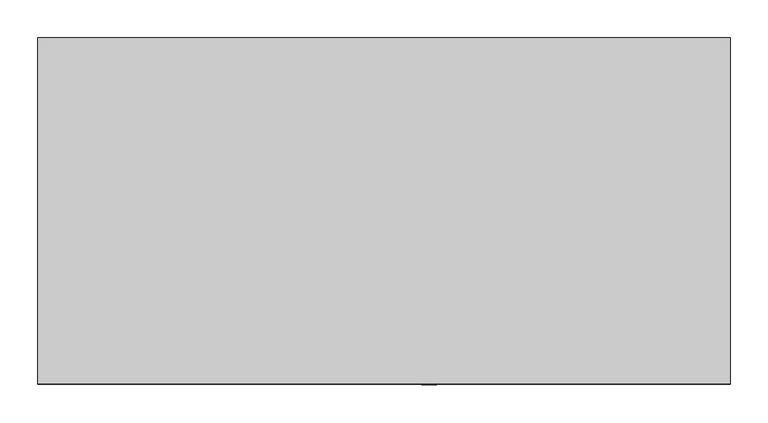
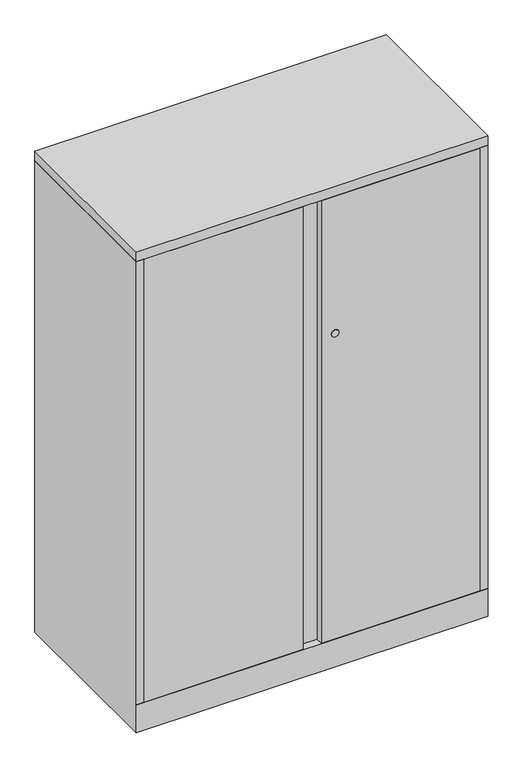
"""IFC4 building model written with IfcOpenShell, lengths in millimetres: furniture geometry, Steelcase - Universal Storage - Cabinet - Storage - 40H-52H - Flush Steel : 52H x 18D x 36W."""

import ifcopenshell
import ifcopenshell.guid

model = None  # the IFC model being written
_history = None  # IfcOwnerHistory: only IFC2X3 demands one
_inside = {}  # id of a spatial element -> (the spatial element, [elements in it])
_under = {}  # id of a project, library or spatial element -> (it, [spatial elements below it])
_declared = {}  # id of a project -> (the project, [libraries it declares])
_typed = {}  # id of a type object -> (the type object, [elements of that type])
_made_of = {}  # id of a material, layer set ... -> (it, [elements and type objects made of it])


def new_model(schema):
    """Start an empty IFC model of exactly this schema.

    Asked for "IFC4X3", IfcOpenShell would pick the latest addendum, in which some entities
    have other attributes; the version numbers below select the first issue.
    IFC2X3 requires an IfcOwnerHistory on every rooted entity: one is made here for all.
    """
    global model, _history
    if schema == "IFC4X3":
        model = ifcopenshell.file(schema_version=(4, 3, 0, 0))
    else:
        model = ifcopenshell.file(schema=schema)
    _inside.clear()
    _under.clear()
    _declared.clear()
    _typed.clear()
    _made_of.clear()
    _history = None
    if model.schema == "IFC2X3":
        org = make("IfcOrganization", Name="unknown")
        user = make(
            "IfcPersonAndOrganization",
            ThePerson=make("IfcPerson", FamilyName="unknown"),
            TheOrganization=org,
        )
        app = make(
            "IfcApplication",
            ApplicationDeveloper=org,
            Version="unknown",
            ApplicationFullName="unknown",
            ApplicationIdentifier="unknown",
        )
        _history = make(
            "IfcOwnerHistory",
            OwningUser=user,
            OwningApplication=app,
            ChangeAction="ADDED",
            CreationDate=0,
        )
    return model


def make(cls, **values):
    """One entity of the class cls with the attributes given. An attribute that is None is left unset."""
    return model.create_entity(
        cls, **{name: value for name, value in values.items() if value is not None}
    )


def rooted(cls, **values):
    """An entity with a GlobalId (a new one), such as an element, a storey or a relation."""
    return make(cls, GlobalId=ifcopenshell.guid.new(), OwnerHistory=_history, **values)


def si_unit(unit_type, name, prefix=None):
    """IfcSIUnit, for example si_unit("LENGTHUNIT", "METRE", prefix="MILLI")."""
    return make("IfcSIUnit", UnitType=unit_type, Prefix=prefix, Name=name)


def assignment(units):
    """IfcUnitAssignment: the units of a project."""
    return None if units is None else make("IfcUnitAssignment", Units=units)


def point(xyz):
    """IfcCartesianPoint."""
    return None if xyz is None else make("IfcCartesianPoint", Coordinates=xyz)


def direction(xyz):
    """IfcDirection."""
    return None if xyz is None else make("IfcDirection", DirectionRatios=xyz)


def frame(location, z_axis=None, x_axis=None):
    """IfcAxis2Placement3D, a coordinate frame: its origin and axes. An axis left out is left unset."""
    return make(
        "IfcAxis2Placement3D",
        Location=point(location),
        Axis=direction(z_axis),
        RefDirection=direction(x_axis),
    )


def frame_2d(location, x_axis=None):
    """IfcAxis2Placement2D, a coordinate frame in the plane: its origin and x axis."""
    return make(
        "IfcAxis2Placement2D", Location=point(location), RefDirection=direction(x_axis)
    )


def origin():
    """The frame at (0, 0, 0) with its axes left unset."""
    return frame((0.0, 0.0, 0.0))


def place(relative_to, where):
    """IfcLocalPlacement: puts the frame where relative to a parent placement (None: the world)."""
    return make(
        "IfcLocalPlacement", PlacementRelTo=relative_to, RelativePlacement=where
    )


def context(
    kind, dimensions, precision=None, world=None, true_north=None, identifier=None
):
    """IfcGeometricRepresentationContext, for example the 3D "Model" context."""
    return make(
        "IfcGeometricRepresentationContext",
        ContextIdentifier=identifier,
        ContextType=kind,
        CoordinateSpaceDimension=dimensions,
        Precision=precision,
        WorldCoordinateSystem=world,
        TrueNorth=true_north,
    )


def project(units=None, contexts=None):
    """IfcProject with its units and contexts."""
    return rooted(
        "IfcProject",
        Name="project",
        RepresentationContexts=contexts,
        UnitsInContext=assignment(units),
    )


def spatial(cls, under=None, at=None, **own):
    """A site, building, storey or space (cls), placed at a placement, below another one or the project."""
    s = rooted(cls, ObjectPlacement=at, **own)
    if under is not None:
        _under.setdefault(under.id(), (under, []))[1].append(s)
    return s


def polyline(points):
    """IfcPolyline through the points."""
    return make("IfcPolyline", Points=[point(p) for p in points])


def circle_curve(where, radius):
    """IfcCircle in the frame where."""
    return make("IfcCircle", Position=where, Radius=radius)


def trimmed(basis, trim1, trim2, sense, master):
    """IfcTrimmedCurve: the piece of a basis curve between two trims."""
    return make(
        "IfcTrimmedCurve",
        BasisCurve=basis,
        Trim1=trim1,
        Trim2=trim2,
        SenseAgreement=sense,
        MasterRepresentation=master,
    )


def segment(curve, same_sense, transition):
    """IfcCompositeCurveSegment."""
    return make(
        "IfcCompositeCurveSegment",
        Transition=transition,
        SameSense=same_sense,
        ParentCurve=curve,
    )


def composite_curve(segments, self_intersect=None):
    """IfcCompositeCurve: segments joined end to end."""
    return make("IfcCompositeCurve", Segments=segments, SelfIntersect=self_intersect)


def outline(outer, holes=None, kind="AREA"):
    """IfcArbitraryClosedProfileDef: a profile drawn as a closed curve; with holes, ...WithVoids."""
    if holes is None:
        return make("IfcArbitraryClosedProfileDef", ProfileType=kind, OuterCurve=outer)
    return make(
        "IfcArbitraryProfileDefWithVoids",
        ProfileType=kind,
        OuterCurve=outer,
        InnerCurves=holes,
    )


def extrude(swept, where, along, depth):
    """IfcExtrudedAreaSolid: the profile swept, set in the frame where, extruded along a direction by depth."""
    return make(
        "IfcExtrudedAreaSolid",
        SweptArea=swept,
        Position=where,
        ExtrudedDirection=direction(along),
        Depth=depth,
    )


def faces_of(points, faces, orient=None, outer=None):
    """IfcFace entities. A face is a list of loops; a loop is a list of indices into points, from 0.

    orient and outer hold one flag for each loop. By default every Orientation is true, the
    first loop of a face is its IfcFaceOuterBound and the others are IfcFaceBound.
    """
    made = []
    for i, loops in enumerate(faces):
        bounds = []
        for j, loop in enumerate(loops):
            is_outer = j == 0 if outer is None else outer[i][j]
            bounds.append(
                make(
                    "IfcFaceOuterBound" if is_outer else "IfcFaceBound",
                    Bound=make("IfcPolyLoop", Polygon=[points[k] for k in loop]),
                    Orientation=True if orient is None else orient[i][j],
                )
            )
        made.append(make("IfcFace", Bounds=bounds))
    return made


def faceted_brep(points, faces, orient=None, outer=None, voids=None):
    """IfcFacetedBrep: a solid bounded by flat faces; with voids (closed shells), ...WithVoids."""
    shared = [point(p) for p in points]
    hull = make("IfcClosedShell", CfsFaces=faces_of(shared, faces, orient, outer))
    if voids is None:
        return make("IfcFacetedBrep", Outer=hull)
    return make(
        "IfcFacetedBrepWithVoids",
        Outer=hull,
        Voids=[
            make(cls, CfsFaces=faces_of(shared, fs, o, b)) for cls, fs, o, b in voids
        ],
    )


def shape(context_of_items, identifier, shape_type, items):
    """IfcShapeRepresentation: the items that make up one representation, for example the "Body"."""
    return make(
        "IfcShapeRepresentation",
        ContextOfItems=context_of_items,
        RepresentationIdentifier=identifier,
        RepresentationType=shape_type,
        Items=items,
    )


def source(mapping_origin, context_of_items, identifier, shape_type, items):
    """IfcRepresentationMap: a shape defined once, which mapped items show again and again."""
    return make(
        "IfcRepresentationMap",
        MappingOrigin=mapping_origin,
        MappedRepresentation=shape(context_of_items, identifier, shape_type, items),
    )


def transform(
    local_origin,
    x_axis=None,
    y_axis=None,
    z_axis=None,
    scale=None,
    scale2=None,
    scale3=None,
    uniform=True,
):
    """IfcCartesianTransformationOperator3D, or its non-uniform kind. x_axis, y_axis, z_axis: its Axis1, 2, 3."""
    if uniform:
        return make(
            "IfcCartesianTransformationOperator3D",
            Axis1=direction(x_axis),
            Axis2=direction(y_axis),
            LocalOrigin=point(local_origin),
            Scale=scale,
            Axis3=direction(z_axis),
        )
    return make(
        "IfcCartesianTransformationOperator3DnonUniform",
        Axis1=direction(x_axis),
        Axis2=direction(y_axis),
        LocalOrigin=point(local_origin),
        Scale=scale,
        Axis3=direction(z_axis),
        Scale2=scale2,
        Scale3=scale3,
    )


def mapped(mapping_source, mapping_target):
    """IfcMappedItem: shows the shape of a source again, moved by a transform."""
    return make(
        "IfcMappedItem", MappingSource=mapping_source, MappingTarget=mapping_target
    )


def made_of(thing, what):
    """Note that an element or type object is made of a material, layer set ...; save() writes the relation."""
    if what is not None:
        _made_of.setdefault(what.id(), (what, []))[1].append(thing)
    return thing


def element(
    cls,
    number,
    at=None,
    inside=None,
    cuts=None,
    type_object=None,
    material=None,
    context=None,
    identifier="Body",
    shape_type=None,
    held_by="IfcProductDefinitionShape",
    body=None,
    shapes=None,
    **own,
):
    """One element of the class cls, such as IfcWall. Its Tag is "e" and its number.

    at: its placement. inside: the storey or other place that contains it. cuts: it is an
    opening in that element (IfcRelVoidsElement). A single representation is given by context,
    identifier, shape_type and body (its items); several are given by shapes. held_by: the class
    of the entity that holds the representations. save() writes the other relations.
    """
    e = rooted(cls, Tag="e%d" % number, ObjectPlacement=at, **own)
    if body is not None:
        shapes = [shape(context, identifier, shape_type, body)]
    if shapes is not None:
        e.Representation = make(held_by, Representations=shapes)
    if inside is not None:
        _inside.setdefault(inside.id(), (inside, []))[1].append(e)
    if cuts is not None:
        rooted(
            "IfcRelVoidsElement", RelatingBuildingElement=cuts, RelatedOpeningElement=e
        )
    if type_object is not None:
        _typed.setdefault(type_object.id(), (type_object, []))[1].append(e)
    return made_of(e, material)


def aggregate(whole, parts):
    """IfcRelAggregates: a whole, such as a stair, and the parts it consists of."""
    return rooted("IfcRelAggregates", RelatingObject=whole, RelatedObjects=parts)


def save(model, path):
    """Write the relations noted so far, then the file.

    IfcRelAggregates (storeys below a building ...), IfcRelContainedInSpatialStructure (elements
    in a storey), IfcRelDefinesByType, IfcRelAssociatesMaterial and IfcRelDeclares: one each for
    every whole, place, type object, material and project.
    """
    for whole, parts in _under.values():
        aggregate(whole, parts)
    for where, things in _inside.values():
        rooted(
            "IfcRelContainedInSpatialStructure",
            RelatedElements=things,
            RelatingStructure=where,
        )
    for kind, things in _typed.values():
        rooted("IfcRelDefinesByType", RelatedObjects=things, RelatingType=kind)
    for what, things in _made_of.values():
        rooted("IfcRelAssociatesMaterial", RelatedObjects=things, RelatingMaterial=what)
    for by, libraries in _declared.values():
        rooted("IfcRelDeclares", RelatingContext=by, RelatedDefinitions=libraries)
    model.write(path)


def furniture_f18c0b79(model_context):
    return source(origin(), model_context, "Body", "SolidModel", [
        extrude(outline(polyline([(914.4, 0.0), (914.4, -457.2), (0.0, -457.2), (0.0, 0.0), (914.4, 0.0)])), frame((0.0, 0.0, 1295.4), z_axis=(0.0, 0.0, 1.0), x_axis=(1.0, 0.0, 0.0)), (0.0, 0.0, 1.0), 25.4000484),
        extrude(outline(composite_curve([segment(trimmed(circle_curve(frame_2d((917.575, 517.0109835)), 9.7167829), [point((917.575, 526.7277664))], [point((917.575, 507.2942006))], False, "CARTESIAN"), True, "CONTINUOUS"), segment(trimmed(circle_curve(frame_2d((917.575, 517.0109835)), 9.7167829), [point((917.575, 507.2942006))], [point((917.575, 526.7277664))], False, "CARTESIAN"), True, "CONTINUOUS")], self_intersect=False)), frame((0.0, -457.8695275, 0.0), z_axis=(0.0, 1.0, 0.0), x_axis=(0.0, 0.0, 1.0)), (0.0, 0.0, 1.0), 0.6695275),
        extrude(outline(polyline([(20.8280006, -431.673866), (893.572, -431.673866), (893.572, -457.2), (481.33, -457.2), (481.33, -438.0238781), (433.07, -438.0238781), (433.07, -457.2), (20.8280006, -457.2), (20.8280006, -431.673866)])), frame((0.0, 0.0, 77.724), z_axis=(0.0, 0.0, 1.0), x_axis=(1.0, 0.0, 0.0)), (0.0, 0.0, 1.0), 1216.406),
        faceted_brep([(914.4, 0.0, 0.0), (914.4, -457.2, 0.0), (0.0, -457.2, 0.0), (0.0, 0.0, 0.0), (0.0, 0.0, 1295.4), (914.4, 0.0, 1295.4), (0.0, -457.2, 76.2), (0.0, -457.2, 77.724), (0.0, -457.2, 1295.4), (914.4, -457.2, 76.2), (914.4, -457.2, 1295.4), (914.4, -457.2, 77.724), (889.0000242, -25.4000008, 1295.4), (889.0000242, -430.1498674, 1295.4), (893.572, -430.1498674, 1295.4), (893.572, -431.6738781, 1295.4), (895.096, -431.6738781, 1295.4), (895.096, -457.2, 1295.4), (19.304, -457.2, 1295.4), (19.304, -431.673866, 1295.4), (20.8280006, -431.673866, 1295.4), (20.8280006, -430.1498674, 1295.4), (25.4000008, -430.1498674, 1295.4), (25.4000008, -25.4000008, 1295.4), (19.304, -457.2, 77.724), (19.304, -437.896, 77.724), (895.096, -457.2, 77.724), (895.096, -437.7698418, 77.724), (889.0000242, -25.4000008, 77.724), (889.0000242, -430.1498674, 77.724), (893.572, -430.1498674, 77.724), (893.572, -431.6738781, 77.724), (895.096, -431.6738781, 77.724), (19.304, -431.673866, 77.724), (20.8280006, -431.673866, 77.724), (20.8280006, -430.1498674, 77.724), (25.4000008, -430.1498674, 77.724), (25.4000008, -25.4000008, 77.724), (25.526134, -431.673866, 77.724), (889.0000242, -431.673866, 77.724)], [[[0, 1, 2, 3]], [[0, 3, 4, 5]], [[4, 3, 2, 6, 7, 8]], [[2, 1, 9, 6]], [[1, 0, 5, 10, 11, 9]], [[12, 13, 14, 15, 16, 17, 10, 5, 4, 8, 18, 19, 20, 21, 22, 23]], [[24, 7, 25]], [[11, 26, 27]], [[13, 12, 28, 29]], [[14, 13, 29, 30]], [[15, 14, 30, 31]], [[16, 15, 31, 32]], [[17, 16, 32, 27, 26]], [[10, 17, 26, 11]], [[18, 8, 7, 24]], [[19, 18, 24, 25, 33]], [[20, 19, 33, 34]], [[21, 20, 34, 35]], [[22, 21, 35, 36]], [[23, 22, 36, 37]], [[12, 23, 37, 28]], [[38, 39, 27, 32, 31, 30, 29, 28, 37, 36, 35, 34, 33, 25]], [[7, 6, 38, 25]], [[39, 38, 6, 9]], [[39, 9, 11, 27]]]),
    ])


if __name__ == "__main__":
    model = new_model("IFC4")
    model_context = context("Model", 3, world=origin())
    ifc_project = project(units=[si_unit("LENGTHUNIT", "METRE", prefix="MILLI")], contexts=[model_context])
    site = spatial("IfcSite", under=ifc_project)
    building = spatial("IfcBuilding", under=site)
    placement = place(None, origin())
    furniture_shape = furniture_f18c0b79(model_context)
    element("IfcFurniture", 1, ObjectType="Steelcase - Universal Storage - Cabinet - Storage - 40H-52H - Flush Steel : 52H x 18D x 36W", at=placement, inside=building, context=model_context, shape_type="MappedRepresentation", body=[
        mapped(furniture_shape, transform((0.0, 0.0, 0.0), x_axis=(1.0, 0.0, 0.0), y_axis=(0.0, 1.0, 0.0), z_axis=(0.0, 0.0, 1.0))),
    ])
    save(model, "model.ifc")
